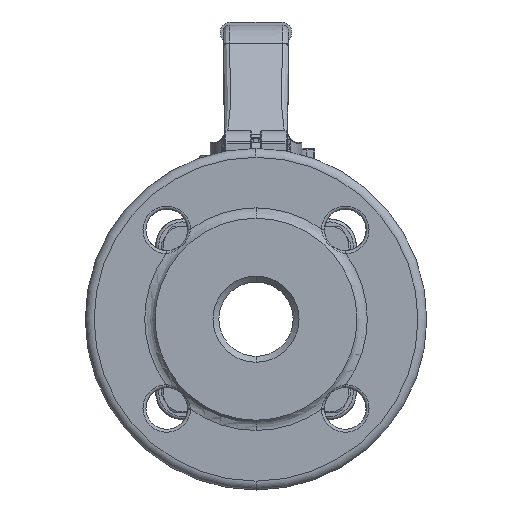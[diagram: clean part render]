
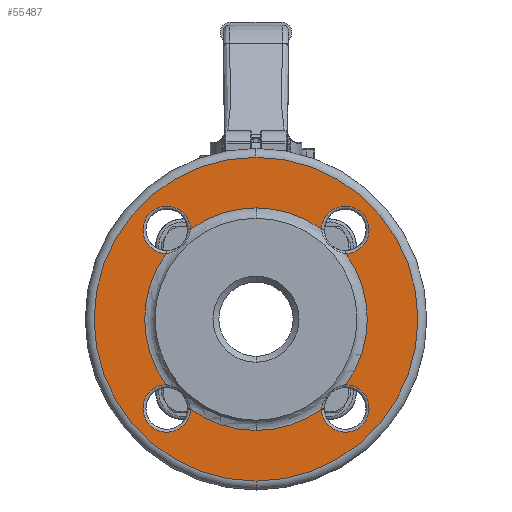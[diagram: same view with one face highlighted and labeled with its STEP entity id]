
A CAD part, left-side view. The second image highlights one B-rep face of the part: STEP entity #55487.
In plain terms, the highlighted planar face has unit normal (-1, 0, 0).
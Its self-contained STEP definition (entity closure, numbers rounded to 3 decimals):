
#1138=CARTESIAN_POINT('',(-42.95,0.,0.));
#1139=DIRECTION('',(1.,0.,0.));
#1140=DIRECTION('',(0.,0.808,-0.589));
#1141=AXIS2_PLACEMENT_3D('',#1138,#1139,#1140);
#1143=CARTESIAN_POINT('',(-42.95,0.,0.));
#1144=DIRECTION('',(1.,0.,0.));
#1145=DIRECTION('',(0.,0.,-1.));
#1146=AXIS2_PLACEMENT_3D('',#1143,#1144,#1145);
#1148=CARTESIAN_POINT('',(-42.95,0.,0.));
#1149=DIRECTION('',(-1.,0.,0.));
#1150=DIRECTION('',(0.,0.,-1.));
#1151=AXIS2_PLACEMENT_3D('',#1148,#1149,#1150);
#1153=CARTESIAN_POINT('',(-42.95,0.,0.));
#1154=DIRECTION('',(-1.,0.,0.));
#1155=DIRECTION('',(0.,-0.808,-0.589));
#1156=AXIS2_PLACEMENT_3D('',#1153,#1154,#1155);
#1158=CARTESIAN_POINT('',(-42.95,0.,0.));
#1159=DIRECTION('',(-1.,0.,0.));
#1160=DIRECTION('',(0.,-0.589,0.808));
#1161=AXIS2_PLACEMENT_3D('',#1158,#1159,#1160);
#1163=CARTESIAN_POINT('',(-42.95,0.,0.));
#1164=DIRECTION('',(1.,0.,0.));
#1165=DIRECTION('',(0.,0.589,0.808));
#1166=AXIS2_PLACEMENT_3D('',#1163,#1164,#1165);
#1173=CARTESIAN_POINT('',(-42.95,0.,0.));
#1174=DIRECTION('',(1.,0.,0.));
#1175=DIRECTION('',(0.,0.,-1.));
#1176=AXIS2_PLACEMENT_3D('',#1173,#1174,#1175);
#1196=CARTESIAN_POINT('',(-42.95,0.,0.));
#1197=DIRECTION('',(1.,0.,0.));
#1198=DIRECTION('',(0.,0.,1.));
#1199=AXIS2_PLACEMENT_3D('',#1196,#1197,#1198);
#43064=CARTESIAN_POINT('',(-42.95,30.052,30.052));
#43065=DIRECTION('',(1.,0.,0.));
#43066=DIRECTION('',(0.,0.029,-1.));
#43067=AXIS2_PLACEMENT_3D('',#43064,#43065,#43066);
#43084=CARTESIAN_POINT('',(-42.95,22.055,
30.284));
#43137=CARTESIAN_POINT('',(-42.95,30.284,
22.055));
#43219=CARTESIAN_POINT('',(-42.95,-30.052,30.052));
#43220=DIRECTION('',(1.,0.,0.));
#43221=DIRECTION('',(0.,1.,0.029));
#43222=AXIS2_PLACEMENT_3D('',#43219,#43220,#43221);
#43239=CARTESIAN_POINT('',(-42.95,-30.284,
22.055));
#43322=CARTESIAN_POINT('',(-42.95,-22.055,
30.284));
#43408=CARTESIAN_POINT('',(-42.95,-30.284,
-22.055));
#43467=CARTESIAN_POINT('',(-42.95,-30.052,-30.052));
#43468=DIRECTION('',(1.,0.,0.));
#43469=DIRECTION('',(0.,-0.029,1.));
#43470=AXIS2_PLACEMENT_3D('',#43467,#43468,#43469);
#43476=CARTESIAN_POINT('',(-42.95,-22.055,
-30.284));
#43534=CARTESIAN_POINT('',(-42.95,22.055,
-30.284));
#43548=CARTESIAN_POINT('',(-42.95,30.052,-30.052));
#43549=DIRECTION('',(1.,0.,0.));
#43550=DIRECTION('',(0.,-1.,-0.029));
#43551=AXIS2_PLACEMENT_3D('',#43548,#43549,#43550);
#43568=CARTESIAN_POINT('',(-42.95,30.284,
-22.055));
#44696=CARTESIAN_POINT('',(-42.95,0.,-54.5));
#44697=CARTESIAN_POINT('',(-42.95,0.,54.5));
#44698=VERTEX_POINT('',#44696);
#44699=VERTEX_POINT('',#44697);
#46264=VERTEX_POINT('',#43084);
#46267=VERTEX_POINT('',#43137);
#46281=VERTEX_POINT('',#43239);
#46284=VERTEX_POINT('',#43322);
#46294=VERTEX_POINT('',#43476);
#46298=VERTEX_POINT('',#43408);
#46314=VERTEX_POINT('',#43568);
#46317=VERTEX_POINT('',#43534);
#46327=CARTESIAN_POINT('',(-42.95,0.,37.464));
#46328=VERTEX_POINT('',#46327);
#46329=CARTESIAN_POINT('',(-42.95,0.,-37.464));
#46330=VERTEX_POINT('',#46329);
#55460=CARTESIAN_POINT('',(-42.95,0.,0.));
#55461=DIRECTION('',(-1.,0.,0.));
#55462=DIRECTION('',(0.,0.,1.));
#55463=AXIS2_PLACEMENT_3D('',#55460,#55461,#55462);
#55464=PLANE('',#55463);
#55466=ORIENTED_EDGE('',*,*,#55465,.T.);
#55468=ORIENTED_EDGE('',*,*,#55467,.T.);
#55469=EDGE_LOOP('',(#55466,#55468));
#55470=FACE_OUTER_BOUND('',#55469,.F.);
#55472=ORIENTED_EDGE('',*,*,#55471,.F.);
#55473=ORIENTED_EDGE('',*,*,#55448,.F.);
#55475=ORIENTED_EDGE('',*,*,#55474,.F.);
#55476=ORIENTED_EDGE('',*,*,#55442,.F.);
#55477=ORIENTED_EDGE('',*,*,#55428,.T.);
#55479=ORIENTED_EDGE('',*,*,#55478,.F.);
#55480=ORIENTED_EDGE('',*,*,#55422,.T.);
#55482=ORIENTED_EDGE('',*,*,#55481,.F.);
#55483=ORIENTED_EDGE('',*,*,#55416,.T.);
#55484=ORIENTED_EDGE('',*,*,#55454,.F.);
#55485=EDGE_LOOP('',(#55472,#55473,#55475,#55476,#55477,#55479,#55480,#55482,
#55483,#55484));
#55486=FACE_BOUND('',#55485,.F.);
#55487=ADVANCED_FACE('',(#55470,#55486),#55464,.T.);
#1142=CIRCLE('',#1141,37.464);
#1147=CIRCLE('',#1146,37.464);
#1152=CIRCLE('',#1151,37.464);
#1157=CIRCLE('',#1156,37.464);
#1162=CIRCLE('',#1161,37.464);
#1167=CIRCLE('',#1166,37.464);
#1177=CIRCLE('',#1176,54.5);
#1200=CIRCLE('',#1199,54.5);
#43068=CIRCLE('',#43067,8.);
#43223=CIRCLE('',#43222,8.);
#43471=CIRCLE('',#43470,8.);
#43552=CIRCLE('',#43551,8.);
#55416=EDGE_CURVE('',#46284,#46328,#1162,.T.);
#55422=EDGE_CURVE('',#46298,#46281,#1157,.T.);
#55428=EDGE_CURVE('',#46330,#46294,#1152,.T.);
#55442=EDGE_CURVE('',#46330,#46317,#1147,.T.);
#55448=EDGE_CURVE('',#46314,#46267,#1142,.T.);
#55454=EDGE_CURVE('',#46264,#46328,#1167,.T.);
#55465=EDGE_CURVE('',#44698,#44699,#1177,.T.);
#55467=EDGE_CURVE('',#44699,#44698,#1200,.T.);
#55471=EDGE_CURVE('',#46267,#46264,#43068,.T.);
#55474=EDGE_CURVE('',#46317,#46314,#43552,.T.);
#55478=EDGE_CURVE('',#46298,#46294,#43471,.T.);
#55481=EDGE_CURVE('',#46284,#46281,#43223,.T.);
